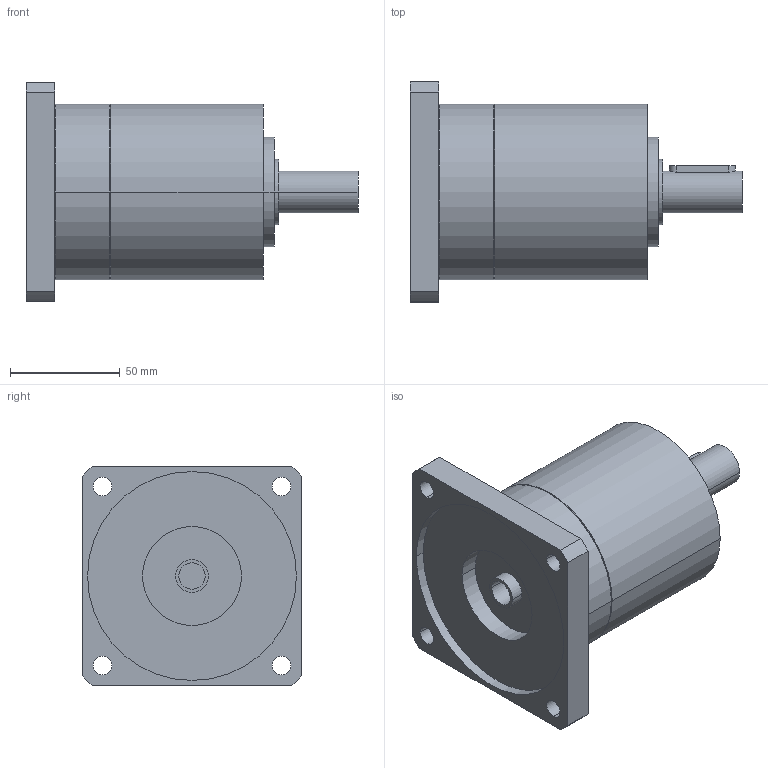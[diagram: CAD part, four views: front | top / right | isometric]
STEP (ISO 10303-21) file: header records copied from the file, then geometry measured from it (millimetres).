
FILE_DESCRIPTION(('CoCreate Modeling STEP Export'),'2;1');
FILE_NAME('GPR100_ig-3-4-5-6_19_B14_12_P07.stp','2014-08-26T10:05:56',(''),(''),'CoCreate Modeling STEP processor for AP214 (Solid Model)','CoCreate Modeling 16.00C 25-Feb-2009 (C) Parametric Technology GmbH','');
FILE_SCHEMA(('AUTOMOTIVE_DESIGN { 1 0 10303 214 1 1 1 1 }'));
Length unit declared in the file: millimetre
Products named in the file (2): GPR100_ig-3-4-5-6_19_B14_12_P07
Assembly tree (1 placements, depth 2):
  GPR100_ig-3-4-5-6_19_B14_12_P07
    GPR100_ig-3-4-5-6_19_B14_12_P07
Bounding box: 151 x 100 x 100 mm (x, y, z)
Volume: 576922.3 mm3; surface area: 58505.2 mm2
Topology: 1 solids, 1 shells, 70 faces, 187 edges, 131 vertices
Faces by surface type: cylinder 42, plane 22, cone 6
Entity records: 1934 total; most frequent: ORIENTED_EDGE 370, CARTESIAN_POINT 359, DIRECTION 262, EDGE_CURVE 185, VERTEX_POINT 131, AXIS2_PLACEMENT_3D 98, EDGE_LOOP 92, FACE_OUTER_BOUND 70
